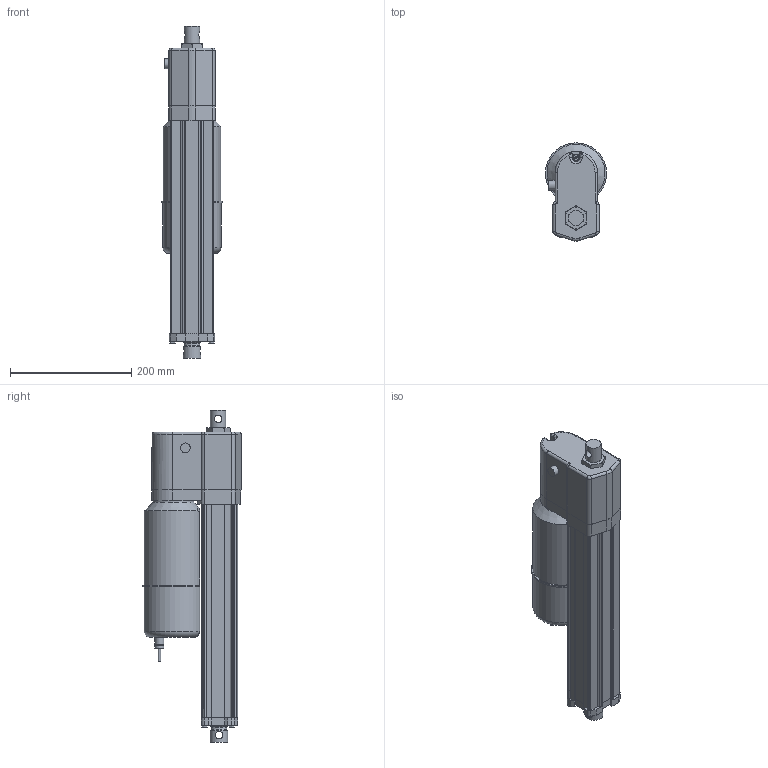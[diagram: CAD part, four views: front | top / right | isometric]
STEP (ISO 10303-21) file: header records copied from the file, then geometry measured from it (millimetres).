
FILE_DESCRIPTION (( 'STEP AP214' ), '1' );
FILE_NAME ('AA22-05A65M-30M0NPO-tollo.step', '2020-04-13T19:00:07', ( '' ), ( '' ), 'SwSTEP 2.0', 'SolidWorks 2010', '' );
FILE_SCHEMA (( 'AUTOMOTIVE_DESIGN' ));
Length unit declared in the file: millimetre
Products named in the file (8): Electrak-LA24-Motor-AA22-05A65M-30M0NPO-tollo_Electrak-LA24-Motor-AA22-05A65M-30M0NPO-tollo; Electrak-LA24-Rear-AA22-05A65M-30M0NPO-tollo_Electrak-LA24-Rear-AA22-05A65M-30M0NPO-tollo; Electrak-LA24-Tube-AA22-05A65M-30M0NPO-tollo_Electrak-LA24-Tube-AA22-05A65M-30M0NPO-tollo; Electrak-LA24-Rod-AA22-05A65M-30M0NPO-tollo_Electrak-LA24-Rod-AA22-05A65M-30M0NPO-tollo; Electrak-LA24-Plate-AA22-05A65M-30M0NPO-tollo_Electrak-LA24-Plate-AA22-05A65M-30M0NPO-tollo; Screw-MFX-H-M5_Screw-MFX-H-M5x24H; Screw-M6S-M5-AA22-05A65M-30M0NPO-tollo_Screw-M6S-M5-AA22-05A65M-30M0NPO-tollo; AA22-05A65M-30M0NPO-tollo
Assembly tree (10 placements, depth 2):
  AA22-05A65M-30M0NPO-tollo
    Screw-M6S-M5-AA22-05A65M-30M0NPO-tollo_Screw-M6S-M5-AA22-05A65M-30M0NPO-tollo  x4
    Screw-MFX-H-M5_Screw-MFX-H-M5x24H
    Electrak-LA24-Plate-AA22-05A65M-30M0NPO-tollo_Electrak-LA24-Plate-AA22-05A65M-30M0NPO-tollo
    Electrak-LA24-Tube-AA22-05A65M-30M0NPO-tollo_Electrak-LA24-Tube-AA22-05A65M-30M0NPO-tollo
    Electrak-LA24-Motor-AA22-05A65M-30M0NPO-tollo_Electrak-LA24-Motor-AA22-05A65M-30M0NPO-tollo
    Electrak-LA24-Rod-AA22-05A65M-30M0NPO-tollo_Electrak-LA24-Rod-AA22-05A65M-30M0NPO-tollo
    Electrak-LA24-Rear-AA22-05A65M-30M0NPO-tollo_Electrak-LA24-Rear-AA22-05A65M-30M0NPO-tollo
Bounding box: 100.99 x 162.5 x 547.8 mm (x, y, z)
Volume: 3318331.8 mm3; surface area: 413320.8 mm2
Topology: 10 solids, 10 shells, 355 faces, 890 edges, 575 vertices
Faces by surface type: plane 175, cylinder 129, cone 31, torus 15, bspline 3, sphere 2
Full cylindrical faces by diameter (mm): 4 x1, 4.126 x5, 4.8 x6, 5 x5, 5.6 x4, 7.878 x4, 9.3 x1, 10 x1, 12.2 x2, 15 x2, 16 x1, 25.4 x1, 28.6 x4, 47.625 x1, 68 x1
Entity records: 9673 total; most frequent: CARTESIAN_POINT 2403, DIRECTION 1454, ORIENTED_EDGE 1342, EDGE_CURVE 671, AXIS2_PLACEMENT_3D 531, VERTEX_POINT 462, LINE 392, VECTOR 392
